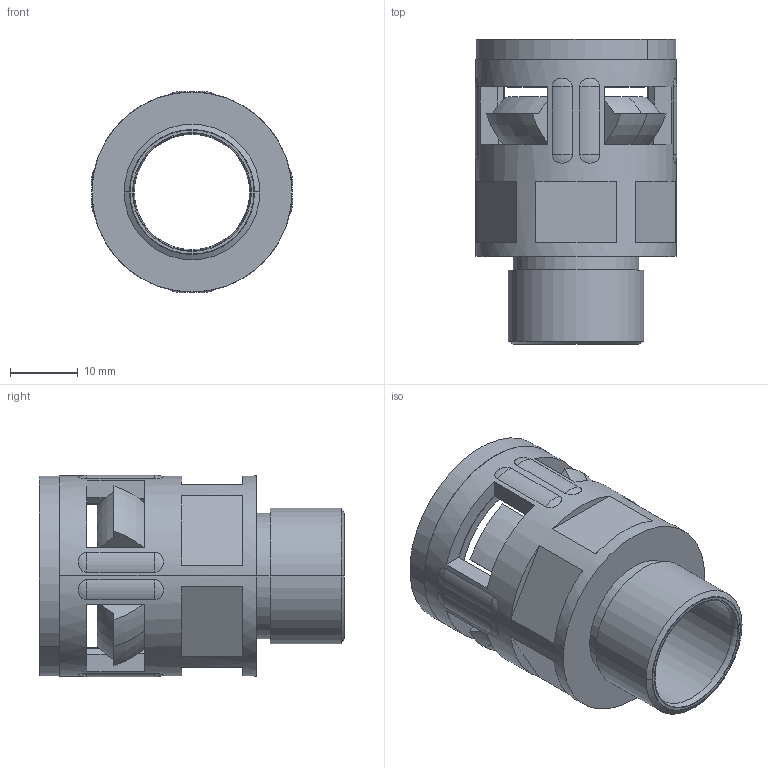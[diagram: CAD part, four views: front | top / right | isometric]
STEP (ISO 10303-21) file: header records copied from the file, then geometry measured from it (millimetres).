
FILE_DESCRIPTION (( 'STEP AP203' ), '1' );
FILE_NAME ('WQG-M20-AD21.2.STEP', '2020-02-27T04:16:08', ( '' ), ( '' ), 'SwSTEP 2.0', 'SolidWorks 2016', '' );
FILE_SCHEMA (( 'CONFIG_CONTROL_DESIGN' ));
Length unit declared in the file: millimetre
Products named in the file (4): NSK-AD21.2; GFD-AD21.2; WQG-M20-AD21.2
Assembly tree (3 placements, depth 2):
  WQG-M20-AD21.2
    WQG-M20-AD21.2
    GFD-AD21.2
    NSK-AD21.2
Bounding box: 29.69 x 45 x 29.69 mm (x, y, z)
Volume: 9857.1 mm3; surface area: 15036.7 mm2
Topology: 7 solids, 8 shells, 346 faces, 851 edges, 512 vertices
Faces by surface type: plane 108, cone 88, sphere 64, cylinder 46, torus 40
Entity records: 10251 total; most frequent: CARTESIAN_POINT 2371, DIRECTION 1679, ORIENTED_EDGE 1510, EDGE_CURVE 755, AXIS2_PLACEMENT_3D 700, VERTEX_POINT 464, CIRCLE 380, EDGE_LOOP 347
